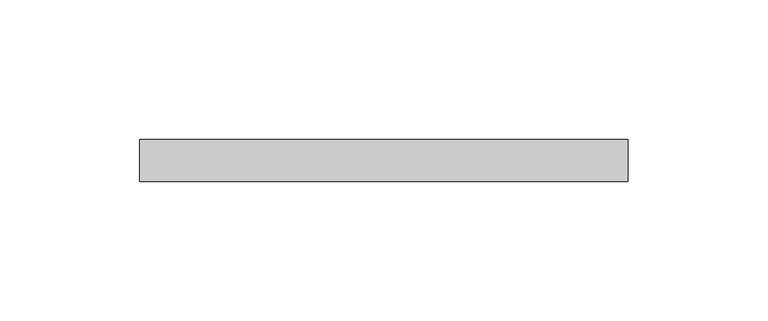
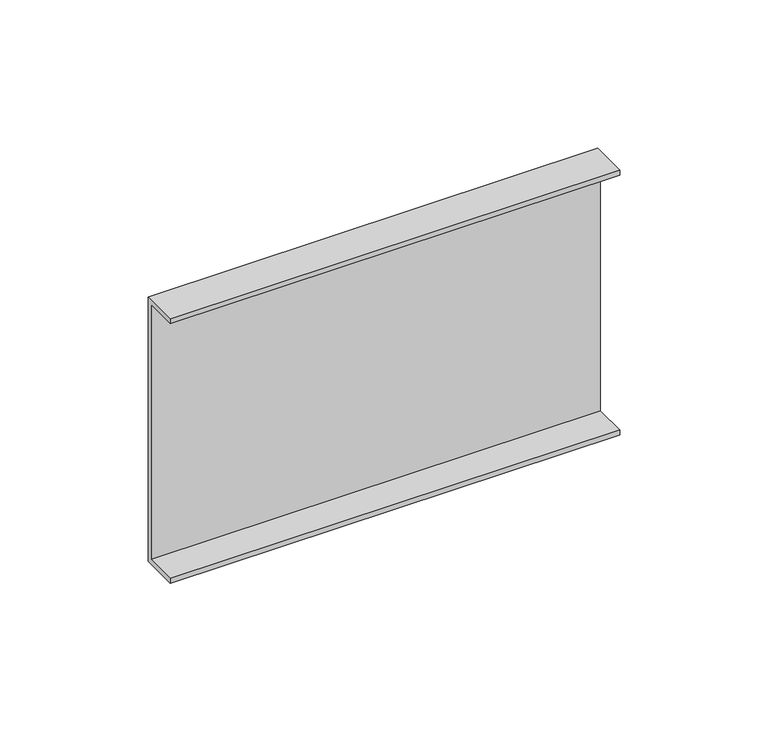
"""IFC4 building model written with IfcOpenShell, lengths in millimetres: cable carrier fitting geometry, BAKS_LD_CONN_Straight connector_LDC : LDC_H45."""

from ifc_helpers import new_model, si_unit, frame, origin, place, context, project, spatial, polyline, outline, extrude, source, transform, mapped, element, save


def cable_carrier_fitting_ca44e503(model_context):
    return source(origin(), model_context, "Body", "SweptSolid", [
        extrude(outline(polyline([(2.0, 54.5), (2.0, -54.5), (-13.0, -54.5), (-13.0, -52.5), (0.0, -52.5), (0.0, 52.5), (-13.0, 52.5), (-13.0, 54.5), (2.0, 54.5)])), frame((-87.5, 0.0, 0.0), z_axis=(1.0, 0.0, 0.0), x_axis=(0.0, 1.0, 0.0)), (0.0, 0.0, 1.0), 175.0),
    ])


if __name__ == "__main__":
    model = new_model("IFC4")
    model_context = context("Model", 3, world=origin())
    ifc_project = project(units=[si_unit("LENGTHUNIT", "METRE", prefix="MILLI")], contexts=[model_context])
    site = spatial("IfcSite", under=ifc_project)
    building = spatial("IfcBuilding", under=site)
    placement = place(None, origin())
    cable_carrier_fitting_shape = cable_carrier_fitting_ca44e503(model_context)
    element("IfcCableCarrierFitting", 1, ObjectType="BAKS_LD_CONN_Straight connector_LDC : LDC_H45", at=placement, inside=building, context=model_context, shape_type="MappedRepresentation", body=[
        mapped(cable_carrier_fitting_shape, transform((0.0, 0.0, 0.0), x_axis=(1.0, 0.0, 0.0), y_axis=(0.0, 1.0, 0.0), z_axis=(0.0, 0.0, 1.0))),
    ])
    save(model, "model.ifc")
